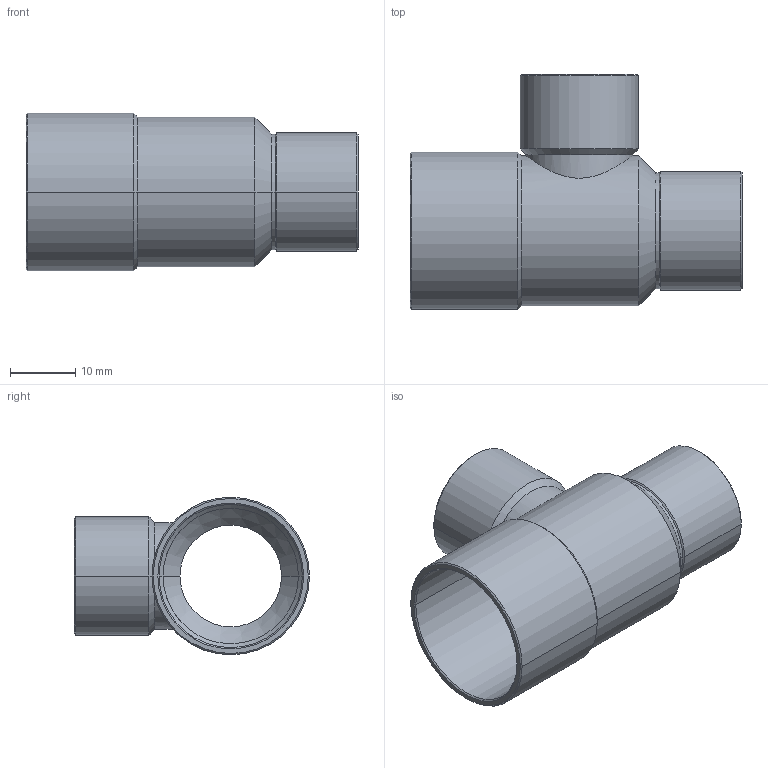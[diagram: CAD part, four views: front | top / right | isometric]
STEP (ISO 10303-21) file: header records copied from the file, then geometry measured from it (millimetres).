
FILE_DESCRIPTION((''),'2;1');
FILE_NAME('P:\Bouwmaten\z-maattekeningen 3D\5000\5130\5130221616.stp','2005-10-26T11:53:42',('Kris'),(''),'Autodesk Inventor 8','Autodesk Inventor 8','');
FILE_SCHEMA(('AUTOMOTIVE_DESIGN { 1 0 10303 214 1 1 1 1 }'));
Length unit declared in the file: millimetre
Products named in the file (1): 5130221616
Bounding box: 51 x 36.1 x 24.2 mm (x, y, z)
Volume: 4330.8 mm3; surface area: 8198.6 mm2
Topology: 1 solids, 1 shells, 55 faces, 116 edges, 62 vertices
Faces by surface type: cone 28, cylinder 24, plane 3
Entity records: 1527 total; most frequent: CARTESIAN_POINT 304, DIRECTION 278, ORIENTED_EDGE 232, EDGE_CURVE 116, AXIS2_PLACEMENT_3D 112, VERTEX_POINT 62, EDGE_LOOP 58, CIRCLE 56
